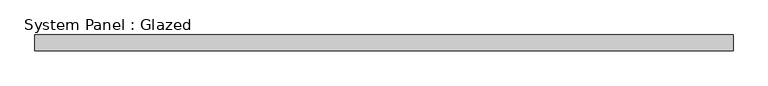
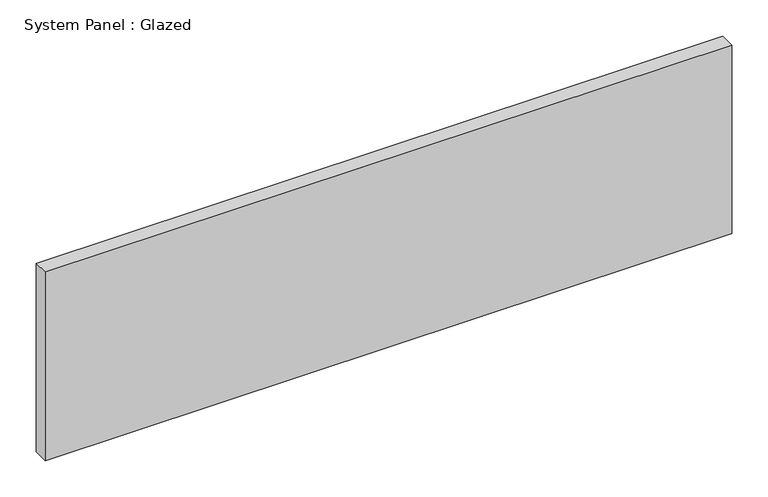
"""IFC4 building model written with IfcOpenShell, lengths in millimetres: plate geometry, System Panel : Glazed."""

from ifc_helpers import new_model, si_unit, origin, origin_with_axes, place, context, project, spatial, polyline, outline, extrude, source, transform, mapped, element, save


def system_panel_glazed_dd1ed69c(model_context):
    return source(origin(), model_context, "Body", "SweptSolid", [
        extrude(outline(polyline([(549.9999999, 24.5), (-549.9999999, 24.5), (-549.9999999, 49.5), (549.9999999, 49.5), (549.9999999, 24.5)])), origin_with_axes(), (0.0, 0.0, 1.0), 319.3395716),
    ])


if __name__ == "__main__":
    model = new_model("IFC4")
    model_context = context("Model", 3, world=origin())
    ifc_project = project(units=[si_unit("LENGTHUNIT", "METRE", prefix="MILLI")], contexts=[model_context])
    site = spatial("IfcSite", under=ifc_project)
    building = spatial("IfcBuilding", under=site)
    placement = place(None, origin())
    system_panel_glazed_shape = system_panel_glazed_dd1ed69c(model_context)
    element("IfcPlate", 1, ObjectType="System Panel : Glazed", at=placement, inside=building, context=model_context, shape_type="MappedRepresentation", body=[
        mapped(system_panel_glazed_shape, transform((0.0, 0.0, 0.0), x_axis=(1.0, 0.0, 0.0), y_axis=(0.0, 1.0, 0.0), z_axis=(0.0, 0.0, 1.0))),
    ])
    save(model, "model.ifc")
